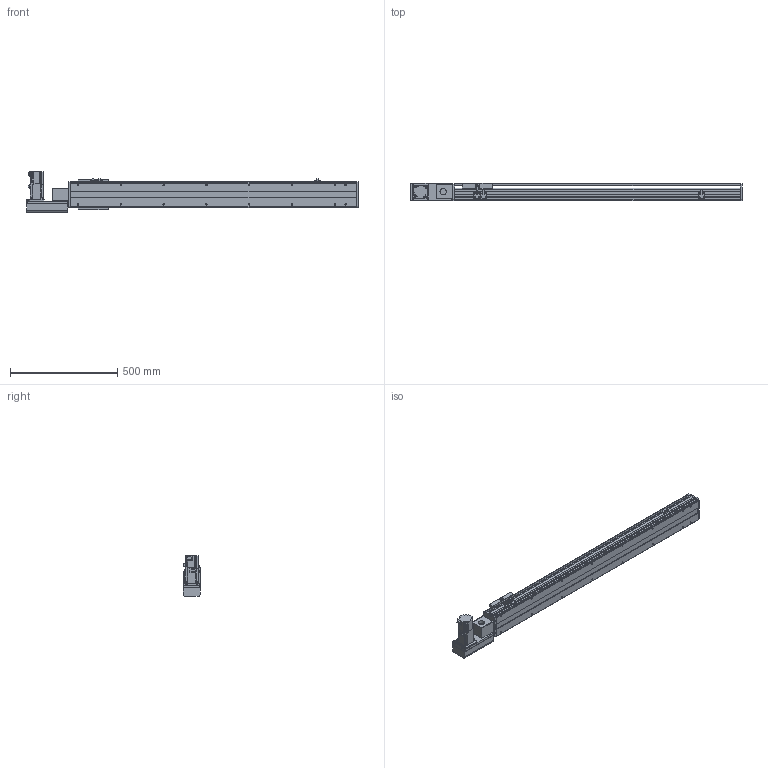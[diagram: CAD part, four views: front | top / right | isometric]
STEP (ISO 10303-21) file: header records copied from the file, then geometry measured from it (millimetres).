
FILE_DESCRIPTION(/* description */ ('STEP AP214'),/* implementation_level */ '2;1');
FILE_NAME(/* name */ 'PBS120-P40-S1050-L-T40-C1-N(0)',/* time_stamp */ '2022-06-05T02:25:31+02:00',/* author */ ('License CC BY-ND 4.0'),/* organization */ ('CADENAS'),/* preprocessor_version */ 'ST-DEVELOPER v18.102',/* originating_system */ 'PARTsolutions',/* authorisation */ ' ');
FILE_SCHEMA (('AUTOMOTIVE_DESIGN {1 0 10303 214 3 1 1}'));
Length unit declared in the file: millimetre
Products named in the file (7): PBS120-P40-S1050-L-T40-C1-N(0); PBS120_sensor; PBS120_plant; PBS120_sliser; T40-p1; PBS120T-L_motors; PBS120-S1050()_body
Assembly tree (8 placements, depth 2):
  PBS120-P40-S1050-L-T40-C1-N(0)
    PBS120_sensor  x3
    PBS120_plant
    PBS120_sliser
    T40-p1
    PBS120T-L_motors
    PBS120-S1050()_body
Bounding box: 1551 x 83 x 189.7 mm (x, y, z)
Volume: 6123832.4 mm3; surface area: 1199811.6 mm2
Topology: 8 solids, 8 shells, 828 faces, 2156 edges, 1387 vertices
Faces by surface type: plane 549, cylinder 229, cone 48, torus 2
Full cylindrical faces by diameter (mm): 2.459 x6, 3.242 x4, 4 x2, 4.134 x4, 4.5 x10, 4.917 x20, 5.5 x11, 6 x2, 6.6 x1, 7 x2, 8.5 x4, 9 x4, 12 x1, 14 x1, 30 x2, 40 x1, 50 x2
Entity records: 21594 total; most frequent: DIRECTION 3740, CARTESIAN_POINT 3677, ORIENTED_EDGE 3502, EDGE_CURVE 1751, AXIS2_PLACEMENT_3D 1256, LINE 1228, VECTOR 1228, VERTEX_POINT 1193
